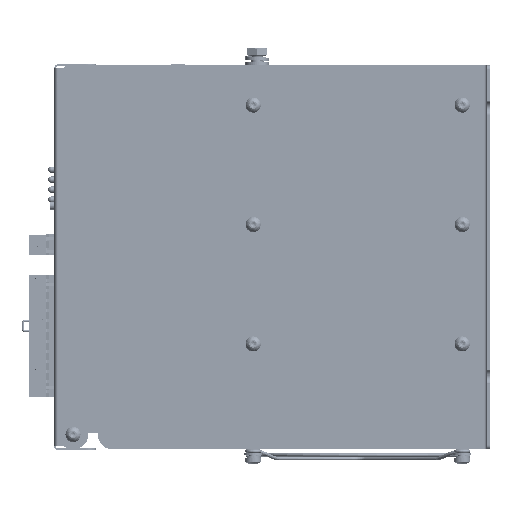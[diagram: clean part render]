
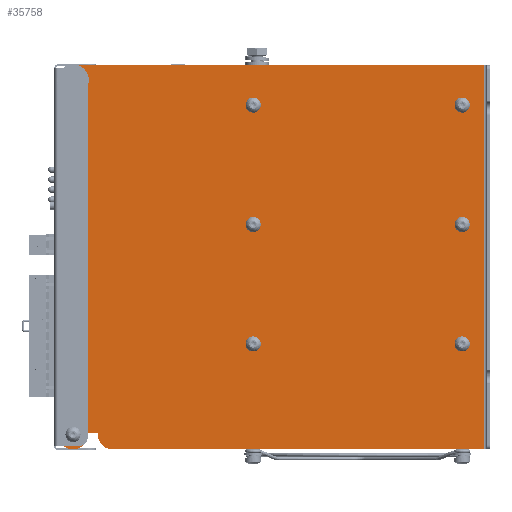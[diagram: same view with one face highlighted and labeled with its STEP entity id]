
A CAD part, left-side view. The second image highlights one B-rep face of the part: STEP entity #35758.
In plain terms, the highlighted planar face has unit normal (-1, 0, 0) as drawn and (0, -1, 0) by its records, which use the part's own axes.
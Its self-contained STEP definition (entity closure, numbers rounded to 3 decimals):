
#35758=ADVANCED_FACE('',(#202434,#202436,#202438,#202440,#202442,#202444,#202446,
#202448,#202450),#202452,.F.);
#202434=FACE_BOUND('',#202435,.T.);
#202435=EDGE_LOOP('',(#314374,#314375,#314376,#314377,#314378,#314379,#314380,#314381,
#314382,#314383));
#202436=FACE_BOUND('',#202437,.T.);
#202437=EDGE_LOOP('',(#314384));
#202438=FACE_BOUND('',#202439,.T.);
#202439=EDGE_LOOP('',(#314385));
#202440=FACE_BOUND('',#202441,.T.);
#202441=EDGE_LOOP('',(#314386));
#202442=FACE_BOUND('',#202443,.T.);
#202443=EDGE_LOOP('',(#314387));
#202444=FACE_BOUND('',#202445,.T.);
#202445=EDGE_LOOP('',(#314388));
#202446=FACE_BOUND('',#202447,.T.);
#202447=EDGE_LOOP('',(#314389));
#202448=FACE_BOUND('',#202449,.T.);
#202449=EDGE_LOOP('',(#314390));
#202450=FACE_BOUND('',#202451,.T.);
#202451=EDGE_LOOP('',(#314391));
#202452=PLANE('',#202453);
#202453=AXIS2_PLACEMENT_3D('',#202454,#202455,#202456);
#202454=CARTESIAN_POINT('',(0.,0.,0.));
#202455=DIRECTION('',(0.,1.,0.));
#202456=DIRECTION('',(-1.,0.,0.));
#314374=ORIENTED_EDGE('',*,*,#400143,.T.);
#314375=ORIENTED_EDGE('',*,*,#400150,.F.);
#314376=ORIENTED_EDGE('',*,*,#400151,.F.);
#314377=ORIENTED_EDGE('',*,*,#400152,.F.);
#314378=ORIENTED_EDGE('',*,*,#400153,.F.);
#314379=ORIENTED_EDGE('',*,*,#400154,.T.);
#314380=ORIENTED_EDGE('',*,*,#400155,.T.);
#314381=ORIENTED_EDGE('',*,*,#400156,.T.);
#314382=ORIENTED_EDGE('',*,*,#400157,.F.);
#314383=ORIENTED_EDGE('',*,*,#400158,.F.);
#314384=ORIENTED_EDGE('',*,*,#400159,.T.);
#314385=ORIENTED_EDGE('',*,*,#400160,.T.);
#314386=ORIENTED_EDGE('',*,*,#400161,.T.);
#314387=ORIENTED_EDGE('',*,*,#400162,.T.);
#314388=ORIENTED_EDGE('',*,*,#400163,.T.);
#314389=ORIENTED_EDGE('',*,*,#400164,.T.);
#314390=ORIENTED_EDGE('',*,*,#400165,.T.);
#314391=ORIENTED_EDGE('',*,*,#400166,.T.);
#400143=EDGE_CURVE('',#452909,#452907,#452910,.T.);
#400150=EDGE_CURVE('',#452919,#452907,#452920,.T.);
#400151=EDGE_CURVE('',#452921,#452919,#452922,.F.);
#400152=EDGE_CURVE('',#452923,#452921,#452924,.T.);
#400153=EDGE_CURVE('',#452925,#452923,#452926,.F.);
#400154=EDGE_CURVE('',#452925,#452927,#452928,.T.);
#400155=EDGE_CURVE('',#452927,#452929,#452930,.T.);
#400156=EDGE_CURVE('',#452929,#452931,#452932,.T.);
#400157=EDGE_CURVE('',#452933,#452931,#452934,.F.);
#400158=EDGE_CURVE('',#452909,#452933,#452935,.T.);
#400159=EDGE_CURVE('',#452936,#452936,#452937,.T.);
#400160=EDGE_CURVE('',#452938,#452938,#452939,.T.);
#400161=EDGE_CURVE('',#452940,#452940,#452941,.T.);
#400162=EDGE_CURVE('',#452942,#452942,#452943,.T.);
#400163=EDGE_CURVE('',#452944,#452944,#452945,.T.);
#400164=EDGE_CURVE('',#452946,#452946,#452947,.T.);
#400165=EDGE_CURVE('',#452948,#452948,#452949,.T.);
#400166=EDGE_CURVE('',#452950,#452950,#452951,.T.);
#452907=VERTEX_POINT('',#592927);
#452909=VERTEX_POINT('',#592932);
#452910=LINE('',#592933,#592934);
#452919=VERTEX_POINT('',#592959);
#452920=LINE('',#592960,#592961);
#452921=VERTEX_POINT('',#592963);
#452922=CIRCLE('',#592964,7.5);
#452923=VERTEX_POINT('',#592968);
#452924=LINE('',#592969,#592970);
#452925=VERTEX_POINT('',#592972);
#452926=CIRCLE('',#592973,7.5);
#452927=VERTEX_POINT('',#592977);
#452928=LINE('',#592978,#592979);
#452929=VERTEX_POINT('',#592981);
#452930=LINE('',#592982,#592983);
#452931=VERTEX_POINT('',#592985);
#452932=LINE('',#592986,#592987);
#452933=VERTEX_POINT('',#592989);
#452934=CIRCLE('',#592990,7.5);
#452935=LINE('',#592994,#592995);
#452936=VERTEX_POINT('',#592997);
#452937=CIRCLE('',#592998,2.65);
#452938=VERTEX_POINT('',#593002);
#452939=CIRCLE('',#593003,2.1);
#452940=VERTEX_POINT('',#593007);
#452941=CIRCLE('',#593008,2.1);
#452942=VERTEX_POINT('',#593012);
#452943=CIRCLE('',#593013,2.1);
#452944=VERTEX_POINT('',#593017);
#452945=CIRCLE('',#593018,2.1);
#452946=VERTEX_POINT('',#593022);
#452947=CIRCLE('',#593023,2.1);
#452948=VERTEX_POINT('',#593027);
#452949=CIRCLE('',#593028,2.1);
#452950=VERTEX_POINT('',#593032);
#452951=CIRCLE('',#593033,2.65);
#592927=CARTESIAN_POINT('',(96.5,0.,-105.5));
#592932=CARTESIAN_POINT('',(-96.5,0.,-105.5));
#592933=CARTESIAN_POINT('',(-96.5,0.,-105.5));
#592934=VECTOR('',#592935,1.);
#592935=DIRECTION('',(1.,0.,0.));
#592959=CARTESIAN_POINT('',(96.5,0.,101.));
#592960=CARTESIAN_POINT('',(96.5,0.,101.));
#592961=VECTOR('',#592962,1.);
#592962=DIRECTION('',(0.,0.,-1.));
#592963=CARTESIAN_POINT('',(89.,0.,108.5));
#592964=AXIS2_PLACEMENT_3D('',#592965,#592966,#592967);
#592965=CARTESIAN_POINT('',(89.,0.,101.));
#592966=DIRECTION('',(0.,-1.,0.));
#592967=DIRECTION('',(1.,0.,0.));
#592968=CARTESIAN_POINT('',(-89.,0.,108.5));
#592969=CARTESIAN_POINT('',(-89.,0.,108.5));
#592970=VECTOR('',#592971,1.);
#592971=DIRECTION('',(1.,0.,0.));
#592972=CARTESIAN_POINT('',(-89.,0.,93.5));
#592973=AXIS2_PLACEMENT_3D('',#592974,#592975,#592976);
#592974=CARTESIAN_POINT('',(-89.,0.,101.));
#592975=DIRECTION('',(0.,-1.,0.));
#592976=DIRECTION('',(0.,0.,1.));
#592977=CARTESIAN_POINT('',(-88.,0.,93.5));
#592978=CARTESIAN_POINT('',(-89.,0.,93.5));
#592979=VECTOR('',#592980,1.);
#592980=DIRECTION('',(1.,0.,0.));
#592981=CARTESIAN_POINT('',(-88.,0.,88.5));
#592982=CARTESIAN_POINT('',(-88.,0.,93.5));
#592983=VECTOR('',#592984,1.);
#592984=DIRECTION('',(0.,0.,-1.));
#592985=CARTESIAN_POINT('',(-89.,0.,88.5));
#592986=CARTESIAN_POINT('',(-88.,0.,88.5));
#592987=VECTOR('',#592988,1.);
#592988=DIRECTION('',(-1.,0.,0.));
#592989=CARTESIAN_POINT('',(-96.5,0.,81.));
#592990=AXIS2_PLACEMENT_3D('',#592991,#592992,#592993);
#592991=CARTESIAN_POINT('',(-89.,0.,81.));
#592992=DIRECTION('',(0.,-1.,0.));
#592993=DIRECTION('',(0.,0.,1.));
#592994=CARTESIAN_POINT('',(-96.5,0.,-105.5));
#592995=VECTOR('',#592996,1.);
#592996=DIRECTION('',(0.,0.,1.));
#592997=CARTESIAN_POINT('',(-91.65,0.,101.));
#592998=AXIS2_PLACEMENT_3D('',#592999,#593000,#593001);
#592999=CARTESIAN_POINT('',(-89.,0.,101.));
#593000=DIRECTION('',(0.,1.,0.));
#593001=DIRECTION('',(-1.,0.,0.));
#593002=CARTESIAN_POINT('',(74.4,0.,-94.5));
#593003=AXIS2_PLACEMENT_3D('',#593004,#593005,#593006);
#593004=CARTESIAN_POINT('',(76.5,0.,-94.5));
#593005=DIRECTION('',(0.,1.,0.));
#593006=DIRECTION('',(-1.,0.,0.));
#593007=CARTESIAN_POINT('',(14.4,0.,-94.5));
#593008=AXIS2_PLACEMENT_3D('',#593009,#593010,#593011);
#593009=CARTESIAN_POINT('',(16.5,0.,-94.5));
#593010=DIRECTION('',(0.,1.,0.));
#593011=DIRECTION('',(-1.,0.,0.));
#593012=CARTESIAN_POINT('',(74.4,0.,10.5));
#593013=AXIS2_PLACEMENT_3D('',#593014,#593015,#593016);
#593014=CARTESIAN_POINT('',(76.5,0.,10.5));
#593015=DIRECTION('',(0.,1.,0.));
#593016=DIRECTION('',(-1.,0.,0.));
#593017=CARTESIAN_POINT('',(-45.6,0.,-94.5));
#593018=AXIS2_PLACEMENT_3D('',#593019,#593020,#593021);
#593019=CARTESIAN_POINT('',(-43.5,0.,-94.5));
#593020=DIRECTION('',(0.,1.,0.));
#593021=DIRECTION('',(-1.,0.,0.));
#593022=CARTESIAN_POINT('',(14.4,0.,10.5));
#593023=AXIS2_PLACEMENT_3D('',#593024,#593025,#593026);
#593024=CARTESIAN_POINT('',(16.5,0.,10.5));
#593025=DIRECTION('',(0.,1.,0.));
#593026=DIRECTION('',(-1.,0.,0.));
#593027=CARTESIAN_POINT('',(-45.6,0.,10.5));
#593028=AXIS2_PLACEMENT_3D('',#593029,#593030,#593031);
#593029=CARTESIAN_POINT('',(-43.5,0.,10.5));
#593030=DIRECTION('',(0.,1.,0.));
#593031=DIRECTION('',(-1.,0.,0.));
#593032=CARTESIAN_POINT('',(86.35,0.,101.));
#593033=AXIS2_PLACEMENT_3D('',#593034,#593035,#593036);
#593034=CARTESIAN_POINT('',(89.,0.,101.));
#593035=DIRECTION('',(0.,1.,0.));
#593036=DIRECTION('',(-1.,0.,0.));
